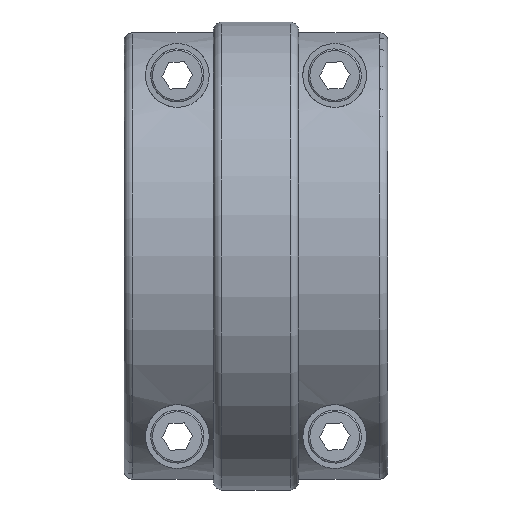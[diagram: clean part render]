
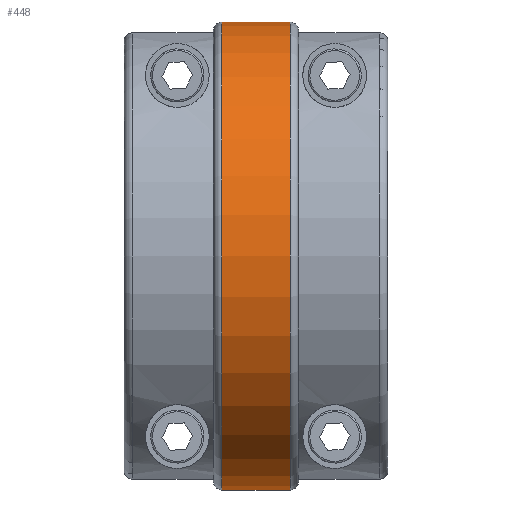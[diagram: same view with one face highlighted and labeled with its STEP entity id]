
A CAD part, front view. The second image highlights one B-rep face of the part: STEP entity #448.
In plain terms, the highlighted cylindrical face has radius 34.925 mm (diameter 69.85 mm), a partial arc.
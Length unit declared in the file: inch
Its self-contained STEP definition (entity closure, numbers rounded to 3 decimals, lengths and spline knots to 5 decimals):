
#302 = EDGE_CURVE ( 'NONE', #5674, #5590, #1568, .T. ) ;
#437 = CARTESIAN_POINT ( 'NONE',  ( -0.2, -0.875, 0. ) ) ;
#439 = VECTOR ( 'NONE', #6369, 39.37008 ) ;
#448 = ADVANCED_FACE ( 'NONE', ( #2490 ), #1135, .T. ) ;
#587 = EDGE_CURVE ( 'NONE', #5590, #3544, #8709, .T. ) ;
#934 = DIRECTION ( 'NONE',  ( -1., 0., 0. ) ) ;
#1135 = CYLINDRICAL_SURFACE ( 'NONE', #8539, 1.375 ) ;
#1568 = LINE ( 'NONE', #5892, #439 ) ;
#1776 = CARTESIAN_POINT ( 'NONE',  ( 0.25, -0.875, 0. ) ) ;
#1827 = CARTESIAN_POINT ( 'NONE',  ( 0.2, -0.875, 0. ) ) ;
#2490 = FACE_OUTER_BOUND ( 'NONE', #2921, .T. ) ;
#2502 = DIRECTION ( 'NONE',  ( 0., 0., -1. ) ) ;
#2698 = EDGE_CURVE ( 'NONE', #4464, #5674, #3597, .T. ) ;
#2891 = ORIENTED_EDGE ( 'NONE', *, *, #2698, .T. ) ;
#2921 = EDGE_LOOP ( 'NONE', ( #4501, #2891, #6284, #7577 ) ) ;
#3183 = CARTESIAN_POINT ( 'NONE',  ( -0.2, -0.875, 1.375 ) ) ;
#3544 = VERTEX_POINT ( 'NONE', #7018 ) ;
#3597 = CIRCLE ( 'NONE', #6440, 1.375 ) ;
#4464 = VERTEX_POINT ( 'NONE', #5726 ) ;
#4501 = ORIENTED_EDGE ( 'NONE', *, *, #7719, .F. ) ;
#4644 = VECTOR ( 'NONE', #934, 39.37008 ) ;
#4705 = AXIS2_PLACEMENT_3D ( 'NONE', #437, #7116, #5732 ) ;
#5164 = DIRECTION ( 'NONE',  ( -1., 0., 0. ) ) ;
#5590 = VERTEX_POINT ( 'NONE', #3183 ) ;
#5674 = VERTEX_POINT ( 'NONE', #5973 ) ;
#5726 = CARTESIAN_POINT ( 'NONE',  ( 0.2, -0.875, -1.375 ) ) ;
#5732 = DIRECTION ( 'NONE',  ( 0., 0., -1. ) ) ;
#5892 = CARTESIAN_POINT ( 'NONE',  ( 0.25, -0.875, 1.375 ) ) ;
#5973 = CARTESIAN_POINT ( 'NONE',  ( 0.2, -0.875, 1.375 ) ) ;
#6284 = ORIENTED_EDGE ( 'NONE', *, *, #302, .T. ) ;
#6369 = DIRECTION ( 'NONE',  ( -1., 0., 0. ) ) ;
#6440 = AXIS2_PLACEMENT_3D ( 'NONE', #1827, #6528, #2502 ) ;
#6457 = LINE ( 'NONE', #6949, #4644 ) ;
#6528 = DIRECTION ( 'NONE',  ( -1., 0., 0. ) ) ;
#6911 = DIRECTION ( 'NONE',  ( 0., 0., 1. ) ) ;
#6949 = CARTESIAN_POINT ( 'NONE',  ( 0.25, -0.875, -1.375 ) ) ;
#7018 = CARTESIAN_POINT ( 'NONE',  ( -0.2, -0.875, -1.375 ) ) ;
#7116 = DIRECTION ( 'NONE',  ( 1., 0., 0. ) ) ;
#7577 = ORIENTED_EDGE ( 'NONE', *, *, #587, .T. ) ;
#7719 = EDGE_CURVE ( 'NONE', #4464, #3544, #6457, .T. ) ;
#8539 = AXIS2_PLACEMENT_3D ( 'NONE', #1776, #5164, #6911 ) ;
#8709 = CIRCLE ( 'NONE', #4705, 1.375 ) ;
